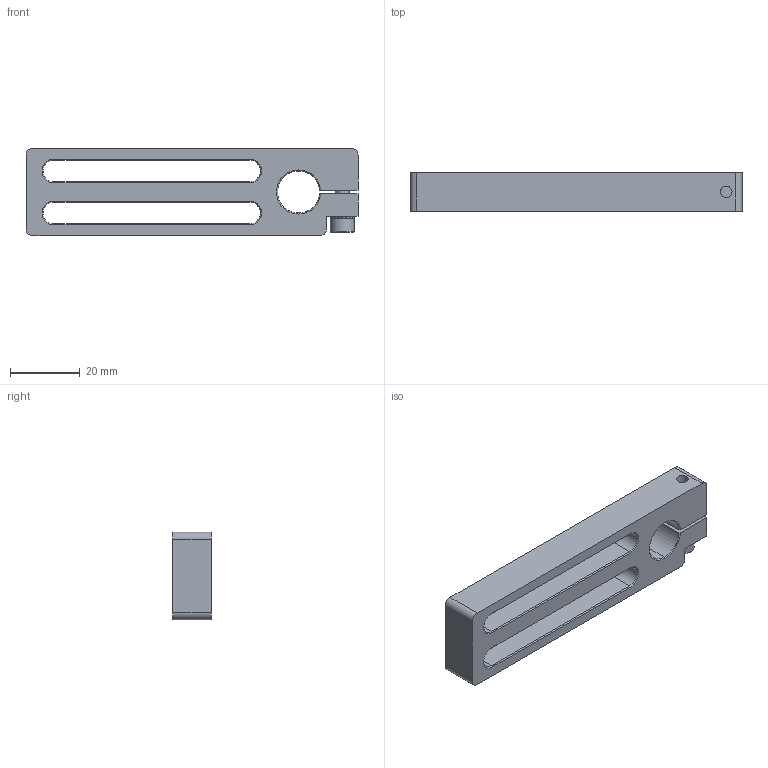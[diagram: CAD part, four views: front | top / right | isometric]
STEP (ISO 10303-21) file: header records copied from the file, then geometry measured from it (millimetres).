
FILE_DESCRIPTION (( 'STEP AP214' ), '1' );
FILE_NAME ('SMBE7-1256.STEP', '2019-12-18T02:56:26', ( '微软用户' ), ( '微软中国' ), 'SwSTEP 2.0', 'SolidWorks 2016', '' );
FILE_SCHEMA (( 'AUTOMOTIVE_DESIGN' ));
Length unit declared in the file: millimetre
Products named in the file (1): SMBE7-1256
Bounding box: 95 x 11 x 25 mm (x, y, z)
Volume: 15969 mm3; surface area: 9540 mm2
Topology: 3 solids, 3 shells, 236 faces, 664 edges, 434 vertices
Faces by surface type: plane 193, cylinder 23, cone 20
Entity records: 10318 total; most frequent: DIRECTION 1360, CARTESIAN_POINT 1347, ORIENTED_EDGE 1328, EDGE_CURVE 664, AXIS2_PLACEMENT_3D 463, LINE 434, VERTEX_POINT 434, VECTOR 434
